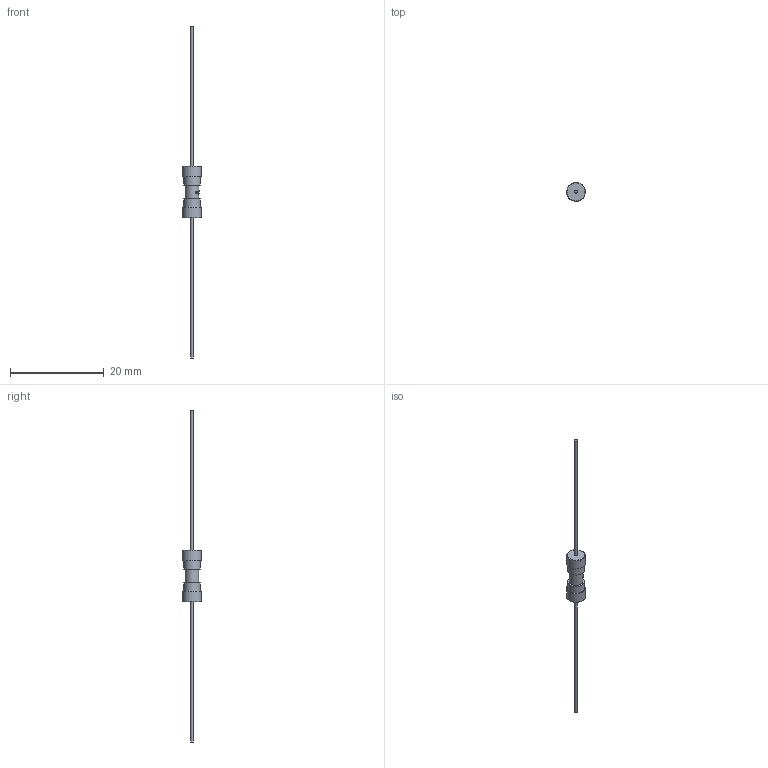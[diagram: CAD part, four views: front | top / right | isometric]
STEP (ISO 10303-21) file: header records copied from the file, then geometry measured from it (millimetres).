
FILE_DESCRIPTION(/* description */ (''),/* implementation_level */ '2;1');
FILE_NAME(/* name */ 'C:\Users\Hani\Desktop\work\FSF\FSF-P.stp',/* time_stamp */ '2022-01-30T09:35:54-08:00',/* author */ ('Hani'),/* organization */ (''),/* preprocessor_version */ 'ST-DEVELOPER v17',/* originating_system */ 'Autodesk Inventor 2019',/* authorisation */ '');
FILE_SCHEMA (('AUTOMOTIVE_DESIGN { 1 0 10303 214 3 1 1 }'));
Length unit declared in the file: inch
Products named in the file (3): FSF-P; FSO-4A; terminal_wire_4mm
Assembly tree (3 placements, depth 2):
  FSF-P
    FSO-4A
    terminal_wire_4mm  x2
Bounding box: 4 x 4 x 71.02 mm (x, y, z)
Volume: 129.3 mm3; surface area: 392.2 mm2
Topology: 3 solids, 3 shells, 161 faces, 414 edges, 276 vertices
Faces by surface type: plane 69, bspline 67, cylinder 21, torus 4
Full cylindrical faces by diameter (mm): 0.6 x2, 2.921 x1, 3.6 x4, 4 x2
Entity records: 6211 total; most frequent: CARTESIAN_POINT 2686, ORIENTED_EDGE 802, DIRECTION 525, EDGE_CURVE 401, VERTEX_POINT 267, LINE 193, VECTOR 193, EDGE_LOOP 168
